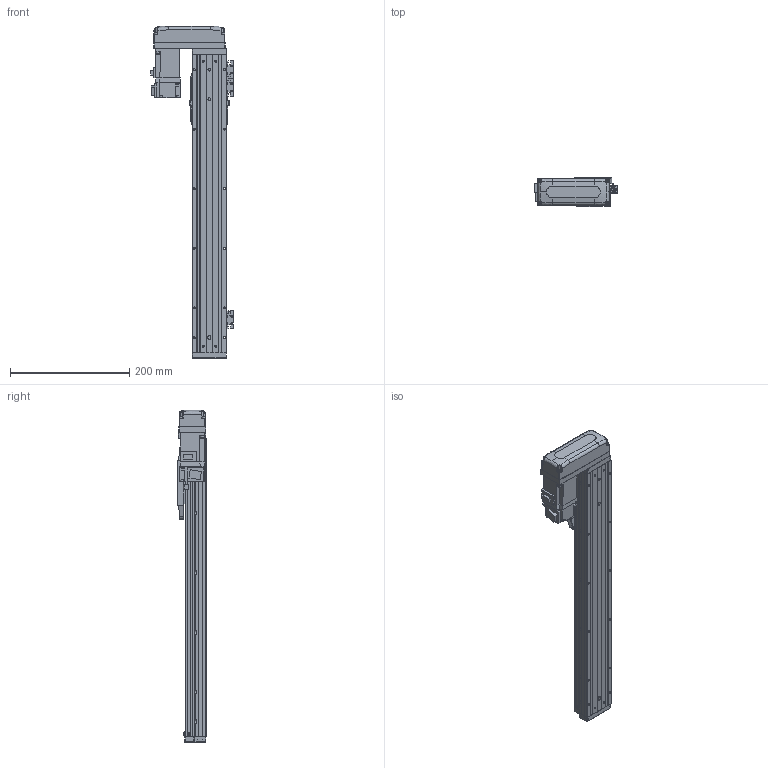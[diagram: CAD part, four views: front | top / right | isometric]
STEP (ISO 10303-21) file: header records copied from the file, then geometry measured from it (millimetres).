
FILE_DESCRIPTION (( 'STEP AP203' ), '1' );
FILE_NAME ('CTHA50-350-BR-M10-C4L.step', '2022-03-19T06:06:50', ( '微软用户' ), ( '微软中国' ), 'SwSTEP 2.0', 'SolidWorks 2020', '' );
FILE_SCHEMA (( 'CONFIG_CONTROL_DESIGN' ));
Length unit declared in the file: millimetre
Products named in the file (20): KTHA50-004; GBT 70.1-M4×12; GBT 70.3-M3℅6; KTHA50-005; CTHA60-016; CTHA50-015-2_CTHA60-015-2; GB¨uT 70.2-M3¡Á6_M3¡Á6; CTHA60-021; CTHA60-033; EE_SX911P_R; HG-KR13（三菱）; GBT 70.1-M3×15; GBT77-2000 M3×3; CTHA50-002; CTHA50-350-BR-M10-C4L; GBT 70.1-M3℅6; CTHA50-030; KTHA50-001_500; CTHA60-017; CTHA50-031
Assembly tree (60 placements, depth 2):
  CTHA50-350-BR-M10-C4L
    KTHA50-001_500
    KTHA50-004
    KTHA50-005
    GB¨uT 70.2-M3¡Á6_M3¡Á6  x10
    EE_SX911P_R  x3
    GBT77-2000 M3×3  x6
    GBT 70.1-M3℅6  x6
    CTHA60-017  x3
    GBT 70.1-M4×12  x10
    CTHA60-016  x2
    CTHA60-021  x2
    HG-KR13（三菱）
    CTHA50-002
    CTHA50-030  x2
    CTHA50-031
    GBT 70.3-M3℅6  x4
    CTHA50-015-2_CTHA60-015-2
    CTHA60-033
    GBT 70.1-M3×15  x4
Bounding box: 139.12 x 48 x 557 mm (x, y, z)
Volume: 1164165.9 mm3; surface area: 301003 mm2
Topology: 62 solids, 62 shells, 2513 faces, 5967 edges, 3654 vertices
Faces by surface type: plane 1422, cylinder 582, cone 351, torus 108, bspline 26, sphere 24
Entity records: 42685 total; most frequent: CARTESIAN_POINT 7883, DIRECTION 6645, ORIENTED_EDGE 6442, EDGE_CURVE 3221, VECTOR 2253, LINE 2253, AXIS2_PLACEMENT_3D 2196, VERTEX_POINT 2028
